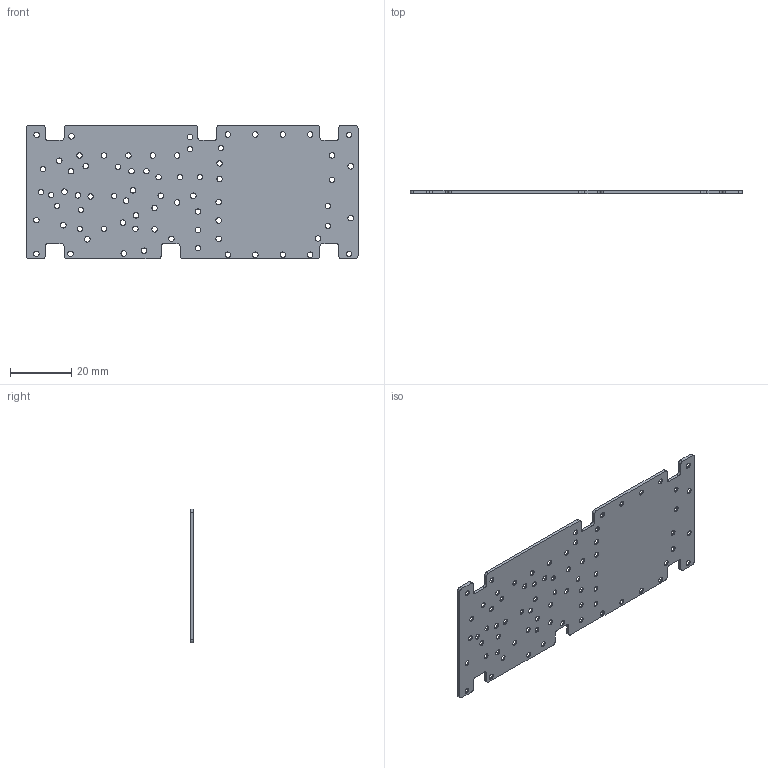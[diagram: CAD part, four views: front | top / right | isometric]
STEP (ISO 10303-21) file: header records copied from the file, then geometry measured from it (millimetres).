
FILE_DESCRIPTION (( 'STEP AP214' ), '1' );
FILE_NAME ('0.1-20GHz狟曹け奻裔啣.STEP', '2026-09-04T07:37:53', ( 'China' ), ( 'Microsoft' ), 'SwSTEP 2.0', 'SolidWorks 2024', '' );
FILE_SCHEMA (( 'AUTOMOTIVE_DESIGN' ));
Length unit declared in the file: millimetre
Products named in the file (1): 0.1-20GHz下变频上盖板
Bounding box: 108.8 x 1 x 43.8 mm (x, y, z)
Volume: 4265.6 mm3; surface area: 9427.3 mm2
Topology: 1 solids, 1 shells, 350 faces, 913 edges, 560 vertices
Faces by surface type: cylinder 174, cone 146, plane 30
Entity records: 11152 total; most frequent: DIRECTION 2099, CARTESIAN_POINT 1878, ORIENTED_EDGE 1826, EDGE_CURVE 913, AXIS2_PLACEMENT_3D 845, VERTEX_POINT 560, CIRCLE 494, EDGE_LOOP 491
